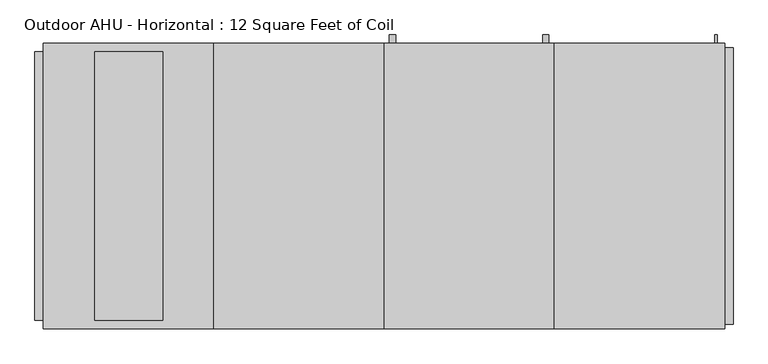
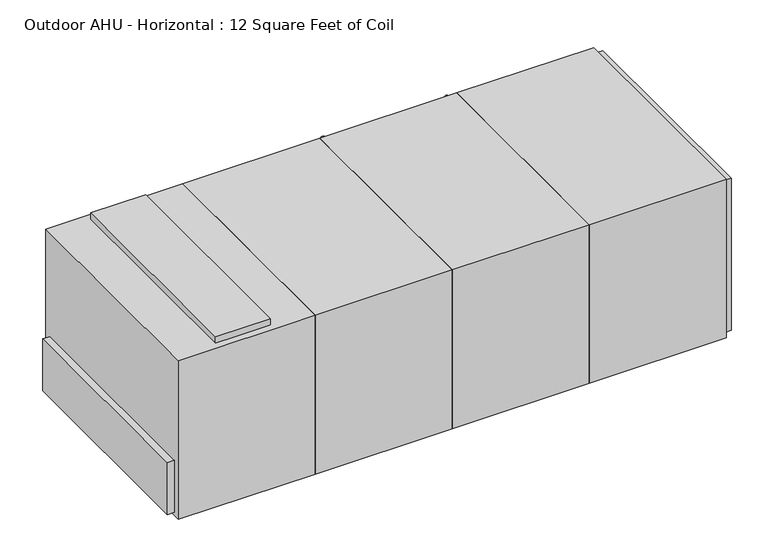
"""IFC4 building model written with IfcOpenShell, lengths in millimetres: proxy geometry, Outdoor AHU - Horizontal : 12 Square Feet of Coil."""

from ifc_helpers import new_model, si_unit, point, frame, frame_2d, origin, origin_with_axes, place, context, project, spatial, polyline, circle_curve, trimmed, segment, composite_curve, outline, extrude, source, transform, mapped, element, save


def outdoor_ahu_horizontal_12_square_feet_of_coil_fc6a1677(model_context):
    return source(origin(), model_context, "Body", "SweptSolid", [
        extrude(outline(composite_curve([segment(trimmed(circle_curve(frame_2d((50.8, 2997.2)), 15.875), [point((50.8, 2981.325))], [point((50.8, 3013.075))], False, "CARTESIAN"), True, "CONTINUOUS"), segment(trimmed(circle_curve(frame_2d((50.8, 2997.2)), 15.875), [point((50.8, 3013.075))], [point((50.8, 2981.325))], False, "CARTESIAN"), True, "CONTINUOUS")], self_intersect=False)), frame((0.0, 850.9, 0.0), z_axis=(0.0, 1.0, 0.0), x_axis=(0.0, 0.0, 1.0)), (0.0, 0.0, 1.0), 50.8),
        extrude(outline(composite_curve([segment(trimmed(circle_curve(frame_2d((254.0, 4013.2)), 6.35), [point((254.0, 4006.85))], [point((254.0, 4019.55))], False, "CARTESIAN"), True, "CONTINUOUS"), segment(trimmed(circle_curve(frame_2d((254.0, 4013.2)), 6.35), [point((254.0, 4019.55))], [point((254.0, 4006.85))], False, "CARTESIAN"), True, "CONTINUOUS")], self_intersect=False)), frame((0.0, 850.9, 0.0), z_axis=(0.0, 1.0, 0.0), x_axis=(0.0, 0.0, 1.0)), (0.0, 0.0, 1.0), 50.8),
        extrude(outline(composite_curve([segment(trimmed(circle_curve(frame_2d((254.0, 2997.2)), 19.05), [point((254.0, 2978.15))], [point((254.0, 3016.25))], False, "CARTESIAN"), True, "CONTINUOUS"), segment(trimmed(circle_curve(frame_2d((254.0, 2997.2)), 19.05), [point((254.0, 3016.25))], [point((254.0, 2978.15))], False, "CARTESIAN"), True, "CONTINUOUS")], self_intersect=False)), frame((0.0, 850.9, 0.0), z_axis=(0.0, 1.0, 0.0), x_axis=(0.0, 0.0, 1.0)), (0.0, 0.0, 1.0), 50.8),
        extrude(outline(composite_curve([segment(trimmed(circle_curve(frame_2d((254.0, 2082.8)), 19.05), [point((254.0, 2063.75))], [point((254.0, 2101.85))], False, "CARTESIAN"), True, "CONTINUOUS"), segment(trimmed(circle_curve(frame_2d((254.0, 2082.8)), 19.05), [point((254.0, 2101.85))], [point((254.0, 2063.75))], False, "CARTESIAN"), True, "CONTINUOUS")], self_intersect=False)), frame((0.0, 850.9, 0.0), z_axis=(0.0, 1.0, 0.0), x_axis=(0.0, 0.0, 1.0)), (0.0, 0.0, 1.0), 50.8),
        extrude(outline(composite_curve([segment(trimmed(circle_curve(frame_2d((1193.8, 2082.8)), 19.05), [point((1193.8, 2063.75))], [point((1193.8, 2101.85))], False, "CARTESIAN"), True, "CONTINUOUS"), segment(trimmed(circle_curve(frame_2d((1193.8, 2082.8)), 19.05), [point((1193.8, 2101.85))], [point((1193.8, 2063.75))], False, "CARTESIAN"), True, "CONTINUOUS")], self_intersect=False)), frame((0.0, 850.9, 0.0), z_axis=(0.0, 1.0, 0.0), x_axis=(0.0, 0.0, 1.0)), (0.0, 0.0, 1.0), 50.8),
        extrude(outline(composite_curve([segment(trimmed(circle_curve(frame_2d((1193.8, 2997.2)), 19.05), [point((1193.8, 2978.15))], [point((1193.8, 3016.25))], False, "CARTESIAN"), True, "CONTINUOUS"), segment(trimmed(circle_curve(frame_2d((1193.8, 2997.2)), 19.05), [point((1193.8, 3016.25))], [point((1193.8, 2978.15))], False, "CARTESIAN"), True, "CONTINUOUS")], self_intersect=False)), frame((0.0, 850.9, 0.0), z_axis=(0.0, 1.0, 0.0), x_axis=(0.0, 0.0, 1.0)), (0.0, 0.0, 1.0), 50.8),
        extrude(outline(polyline([(4114.8, 825.5), (4114.8, -825.5), (4064.0, -825.5), (4064.0, 825.5), (4114.8, 825.5)])), frame((0.0, 0.0, 25.4), z_axis=(0.0, 0.0, 1.0), x_axis=(1.0, 0.0, 0.0)), (0.0, 0.0, 1.0), 1193.8),
        extrude(outline(polyline([(0.0, 800.1), (0.0, -800.1), (-50.8, -800.1), (-50.8, 800.1), (0.0, 800.1)])), frame((0.0, 0.0, 25.4), z_axis=(0.0, 0.0, 1.0), x_axis=(1.0, 0.0, 0.0)), (0.0, 0.0, 1.0), 406.4),
        extrude(outline(polyline([(711.2, 800.1), (711.2, -800.1), (304.8, -800.1), (304.8, 800.1), (711.2, 800.1)])), frame((0.0, 0.0, 1244.6), z_axis=(0.0, 0.0, 1.0), x_axis=(1.0, 0.0, 0.0)), (0.0, 0.0, 1.0), 50.8),
        extrude(outline(polyline([(4064.0, 850.9), (4064.0, -850.9), (3048.0, -850.9), (3048.0, 850.9), (4064.0, 850.9)])), origin_with_axes(), (0.0, 0.0, 1.0), 1244.6),
        extrude(outline(polyline([(3048.0, 850.9), (3048.0, -850.9), (2032.0, -850.9), (2032.0, 850.9), (3048.0, 850.9)])), origin_with_axes(), (0.0, 0.0, 1.0), 1244.6),
        extrude(outline(polyline([(2032.0, 850.9), (2032.0, -850.9), (1016.0, -850.9), (1016.0, 850.9), (2032.0, 850.9)])), origin_with_axes(), (0.0, 0.0, 1.0), 1244.6),
        extrude(outline(polyline([(1016.0, 850.9), (1016.0, -850.9), (0.0, -850.9), (0.0, 850.9), (1016.0, 850.9)])), origin_with_axes(), (0.0, 0.0, 1.0), 1244.6),
    ])


if __name__ == "__main__":
    model = new_model("IFC4")
    model_context = context("Model", 3, world=origin())
    ifc_project = project(units=[si_unit("LENGTHUNIT", "METRE", prefix="MILLI")], contexts=[model_context])
    site = spatial("IfcSite", under=ifc_project)
    building = spatial("IfcBuilding", under=site)
    placement = place(None, origin())
    outdoor_ahu_horizontal_12_square_feet_of_coil_shape = outdoor_ahu_horizontal_12_square_feet_of_coil_fc6a1677(model_context)
    element("IfcBuildingElementProxy", 1, Name="Outdoor AHU - Horizontal : 12 Square Feet of Coil", ObjectType="Outdoor AHU - Horizontal : 12 Square Feet of Coil", at=placement, inside=building, context=model_context, shape_type="MappedRepresentation", body=[
        mapped(outdoor_ahu_horizontal_12_square_feet_of_coil_shape, transform((0.0, 0.0, 0.0), x_axis=(1.0, 0.0, 0.0), y_axis=(0.0, 1.0, 0.0), z_axis=(0.0, 0.0, 1.0))),
    ])
    save(model, "model.ifc")
